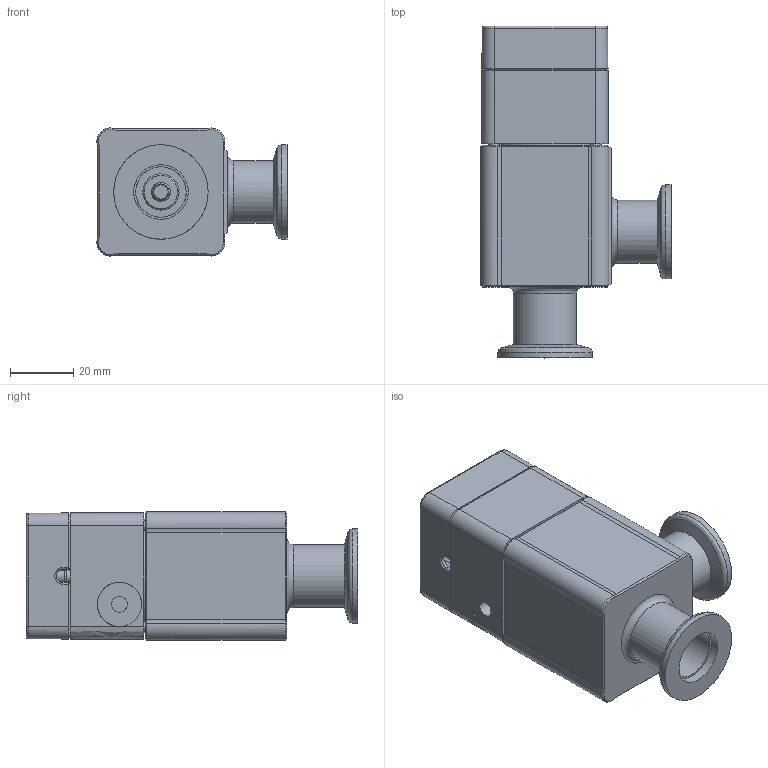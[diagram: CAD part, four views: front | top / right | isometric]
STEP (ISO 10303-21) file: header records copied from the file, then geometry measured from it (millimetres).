
FILE_DESCRIPTION((''),'2;1');
FILE_NAME('C:\Temp\ideas\239979.stp','2005-10-14T11:20:35',('User'),( 'SDRC'),'I-DEAS Master Series 9','UNIX','Yes');
FILE_SCHEMA(('CONFIG_CONTROL_DESIGN'));
Length unit declared in the file: millimetre
Assembly tree (10 placements, depth 0):
Bounding box: 60.3 x 105.2 x 40.6 mm (x, y, z)
Volume: 93130.7 mm3; surface area: 42449 mm2
Topology: 10 solids, 11 shells, 496 faces, 1211 edges, 773 vertices
Faces by surface type: bspline 496
Entity records: 15871 total; most frequent: CARTESIAN_POINT 8473, ORIENTED_EDGE 2161, EDGE_CURVE 1082, VERTEX_POINT 692, EDGE_LOOP 501, FACE_OUTER_BOUND 439, ADVANCED_FACE 439, QUASI_UNIFORM_CURVE 397
